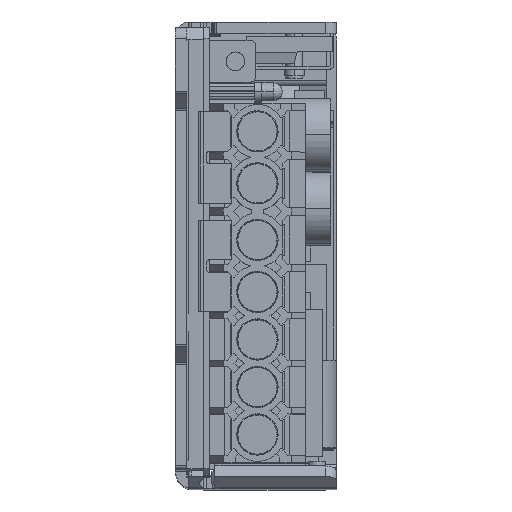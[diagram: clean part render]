
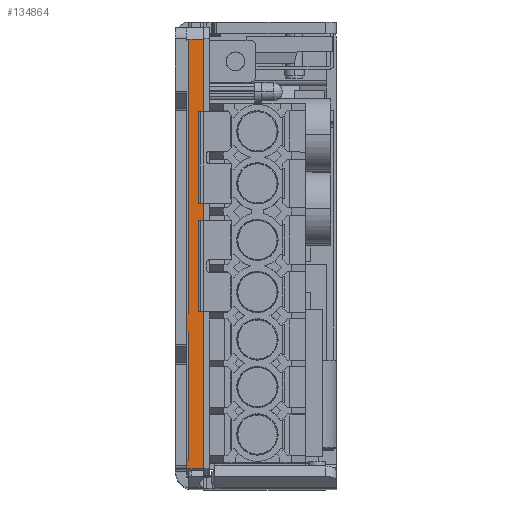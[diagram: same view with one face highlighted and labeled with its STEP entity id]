
A CAD part, top view. The second image highlights one B-rep face of the part: STEP entity #134864.
In plain terms, the highlighted planar face has unit normal (0, 0, 1).
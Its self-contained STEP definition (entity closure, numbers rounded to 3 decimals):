
#2245 = VERTEX_POINT ( 'NONE', #159986 ) ;
#6553 = DIRECTION ( 'NONE',  ( 0., 1., 0. ) ) ;
#8115 = ORIENTED_EDGE ( 'NONE', *, *, #49639, .F. ) ;
#8126 = CARTESIAN_POINT ( 'NONE',  ( 2.25, 79.2, -0.1 ) ) ;
#8490 = VERTEX_POINT ( 'NONE', #52275 ) ;
#10572 = ORIENTED_EDGE ( 'NONE', *, *, #63569, .F. ) ;
#10776 = EDGE_CURVE ( 'NONE', #8490, #2245, #41077, .T. ) ;
#12402 = VERTEX_POINT ( 'NONE', #100788 ) ;
#12809 = CARTESIAN_POINT ( 'NONE',  ( 2.25, 4.976, -0.1 ) ) ;
#13405 = CARTESIAN_POINT ( 'NONE',  ( 2., 79.2, -0.1 ) ) ;
#14652 = CARTESIAN_POINT ( 'NONE',  ( 2., 4.976, -0.1 ) ) ;
#17766 = VECTOR ( 'NONE', #158804, 1000. ) ;
#18581 = EDGE_CURVE ( 'NONE', #26426, #125258, #60741, .T. ) ;
#21570 = ORIENTED_EDGE ( 'NONE', *, *, #37393, .T. ) ;
#26426 = VERTEX_POINT ( 'NONE', #121199 ) ;
#27415 = LINE ( 'NONE', #14652, #110654 ) ;
#35272 = ORIENTED_EDGE ( 'NONE', *, *, #91058, .T. ) ;
#37393 = EDGE_CURVE ( 'NONE', #12402, #8490, #128899, .T. ) ;
#38323 = DIRECTION ( 'NONE',  ( 0., 1., 0. ) ) ;
#40221 = EDGE_CURVE ( 'NONE', #125258, #116862, #84149, .T. ) ;
#41077 = LINE ( 'NONE', #156556, #124734 ) ;
#41247 = ORIENTED_EDGE ( 'NONE', *, *, #94409, .F. ) ;
#41453 = CARTESIAN_POINT ( 'NONE',  ( 2., 81.4, -0.1 ) ) ;
#43489 = ORIENTED_EDGE ( 'NONE', *, *, #62268, .F. ) ;
#45256 = DIRECTION ( 'NONE',  ( -1., 0., 0. ) ) ;
#46099 = CARTESIAN_POINT ( 'NONE',  ( 2., 81.5, -0.1 ) ) ;
#48273 = VECTOR ( 'NONE', #6553, 1000. ) ;
#49639 = EDGE_CURVE ( 'NONE', #116862, #61489, #72352, .T. ) ;
#49669 = VERTEX_POINT ( 'NONE', #98698 ) ;
#50962 = VECTOR ( 'NONE', #136647, 1000. ) ;
#51403 = DIRECTION ( 'NONE',  ( 1., 0., 0. ) ) ;
#51985 = ORIENTED_EDGE ( 'NONE', *, *, #40221, .F. ) ;
#52088 = CARTESIAN_POINT ( 'NONE',  ( 2., 31., -0.1 ) ) ;
#52275 = CARTESIAN_POINT ( 'NONE',  ( 2., 3.5, -0.1 ) ) ;
#52790 = ORIENTED_EDGE ( 'NONE', *, *, #153511, .F. ) ;
#55103 = VECTOR ( 'NONE', #155682, 1000. ) ;
#56046 = LINE ( 'NONE', #81476, #50962 ) ;
#57040 = AXIS2_PLACEMENT_3D ( 'NONE', #97031, #109827, #45256 ) ;
#59767 = CARTESIAN_POINT ( 'NONE',  ( 2.25, 27.8, -0.1 ) ) ;
#60044 = EDGE_CURVE ( 'NONE', #2245, #49669, #166563, .T. ) ;
#60345 = ORIENTED_EDGE ( 'NONE', *, *, #10776, .T. ) ;
#60741 = LINE ( 'NONE', #151608, #48273 ) ;
#61489 = VERTEX_POINT ( 'NONE', #134501 ) ;
#62114 = VERTEX_POINT ( 'NONE', #162716 ) ;
#62268 = EDGE_CURVE ( 'NONE', #100349, #26426, #120123, .T. ) ;
#63569 = EDGE_CURVE ( 'NONE', #104464, #62114, #120599, .T. ) ;
#64734 = DIRECTION ( 'NONE',  ( 1., 0., 0. ) ) ;
#65664 = PLANE ( 'NONE',  #57040 ) ;
#68080 = ORIENTED_EDGE ( 'NONE', *, *, #18581, .F. ) ;
#72352 = LINE ( 'NONE', #46099, #144106 ) ;
#78358 = ORIENTED_EDGE ( 'NONE', *, *, #60044, .T. ) ;
#78959 = CARTESIAN_POINT ( 'NONE',  ( 2., 27.8, -0.1 ) ) ;
#81476 = CARTESIAN_POINT ( 'NONE',  ( 5., 79.4, -0.1 ) ) ;
#84149 = LINE ( 'NONE', #120724, #121897 ) ;
#91058 = EDGE_CURVE ( 'NONE', #100349, #163098, #105582, .T. ) ;
#94409 = EDGE_CURVE ( 'NONE', #61489, #49669, #56046, .T. ) ;
#96562 = ORIENTED_EDGE ( 'NONE', *, *, #107167, .F. ) ;
#97031 = CARTESIAN_POINT ( 'NONE',  ( 5., 81.4, -0.1 ) ) ;
#98698 = CARTESIAN_POINT ( 'NONE',  ( 5., 79.4, -0.1 ) ) ;
#100349 = VERTEX_POINT ( 'NONE', #52088 ) ;
#100788 = CARTESIAN_POINT ( 'NONE',  ( 2., 4.976, -0.1 ) ) ;
#101879 = EDGE_LOOP ( 'NONE', ( #78358, #41247, #8115, #51985, #68080, #43489, #35272, #96562, #10572, #52790, #21570, #60345 ) ) ;
#103061 = FACE_OUTER_BOUND ( 'NONE', #101879, .T. ) ;
#103902 = DIRECTION ( 'NONE',  ( 1., 0., 0. ) ) ;
#104464 = VERTEX_POINT ( 'NONE', #12809 ) ;
#105582 = LINE ( 'NONE', #130207, #55103 ) ;
#107167 = EDGE_CURVE ( 'NONE', #62114, #163098, #148144, .T. ) ;
#109827 = DIRECTION ( 'NONE',  ( 0., 0., -1. ) ) ;
#110654 = VECTOR ( 'NONE', #64734, 1000. ) ;
#114186 = VECTOR ( 'NONE', #148967, 1000. ) ;
#116862 = VERTEX_POINT ( 'NONE', #13405 ) ;
#120123 = LINE ( 'NONE', #145572, #147452 ) ;
#120599 = LINE ( 'NONE', #134135, #17766 ) ;
#120724 = CARTESIAN_POINT ( 'NONE',  ( 2.25, 79.2, -0.1 ) ) ;
#120983 = VECTOR ( 'NONE', #157781, 1000. ) ;
#121199 = CARTESIAN_POINT ( 'NONE',  ( 2.25, 31., -0.1 ) ) ;
#121897 = VECTOR ( 'NONE', #158939, 1000. ) ;
#124734 = VECTOR ( 'NONE', #103902, 1000. ) ;
#125258 = VERTEX_POINT ( 'NONE', #8126 ) ;
#128899 = LINE ( 'NONE', #41453, #120983 ) ;
#130207 = CARTESIAN_POINT ( 'NONE',  ( 2., 81.4, -0.1 ) ) ;
#134135 = CARTESIAN_POINT ( 'NONE',  ( 2.25, 73.7, -0.1 ) ) ;
#134501 = CARTESIAN_POINT ( 'NONE',  ( 2., 79.4, -0.1 ) ) ;
#134864 = ADVANCED_FACE ( 'NONE', ( #103061 ), #65664, .F. ) ;
#136647 = DIRECTION ( 'NONE',  ( 1., 0., 0. ) ) ;
#144106 = VECTOR ( 'NONE', #147171, 1000. ) ;
#145572 = CARTESIAN_POINT ( 'NONE',  ( 2.25, 31., -0.1 ) ) ;
#147171 = DIRECTION ( 'NONE',  ( 0., 1., 0. ) ) ;
#147452 = VECTOR ( 'NONE', #51403, 1000. ) ;
#148144 = LINE ( 'NONE', #59767, #114186 ) ;
#148967 = DIRECTION ( 'NONE',  ( -1., 0., 0. ) ) ;
#151608 = CARTESIAN_POINT ( 'NONE',  ( 2.25, 73.7, -0.1 ) ) ;
#152055 = VECTOR ( 'NONE', #38323, 1000. ) ;
#153511 = EDGE_CURVE ( 'NONE', #12402, #104464, #27415, .T. ) ;
#154644 = CARTESIAN_POINT ( 'NONE',  ( 5., 81.4, -0.1 ) ) ;
#155682 = DIRECTION ( 'NONE',  ( 0., -1., 0. ) ) ;
#156556 = CARTESIAN_POINT ( 'NONE',  ( 5., 3.5, -0.1 ) ) ;
#157781 = DIRECTION ( 'NONE',  ( 0., -1., 0. ) ) ;
#158804 = DIRECTION ( 'NONE',  ( 0., 1., 0. ) ) ;
#158939 = DIRECTION ( 'NONE',  ( -1., 0., 0. ) ) ;
#159986 = CARTESIAN_POINT ( 'NONE',  ( 5., 3.5, -0.1 ) ) ;
#162716 = CARTESIAN_POINT ( 'NONE',  ( 2.25, 27.8, -0.1 ) ) ;
#163098 = VERTEX_POINT ( 'NONE', #78959 ) ;
#166563 = LINE ( 'NONE', #154644, #152055 ) ;
